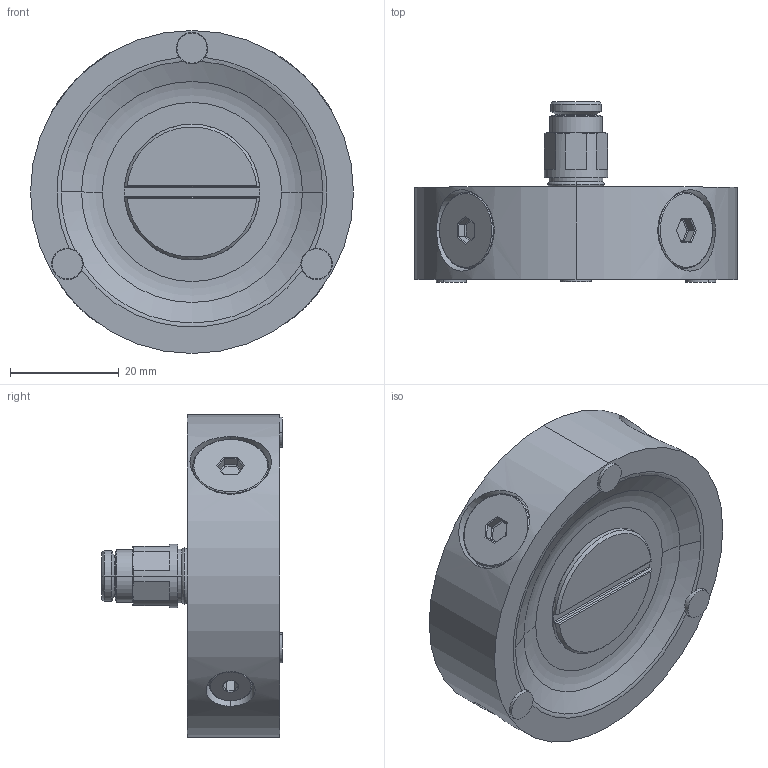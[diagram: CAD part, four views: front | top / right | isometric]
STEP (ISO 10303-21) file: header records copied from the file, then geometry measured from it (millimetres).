
FILE_DESCRIPTION (( 'STEP AP203' ), '1' );
FILE_NAME ('VB 60.STEP', '2021-12-21T14:39:43', ( '' ), ( '' ), 'SwSTEP 2.0', 'SolidWorks 2021', '' );
FILE_SCHEMA (( 'CONFIG_CONTROL_DESIGN' ));
Length unit declared in the file: millimetre
Products named in the file (1): VB 60
Bounding box: 59.5 x 33.24 x 59.5 mm (x, y, z)
Volume: 39695.8 mm3; surface area: 17448.3 mm2
Topology: 12 solids, 13 shells, 492 faces, 1185 edges, 727 vertices
Faces by surface type: cylinder 225, plane 118, cone 108, torus 29, bspline 12
Entity records: 20428 total; most frequent: CARTESIAN_POINT 9558, ORIENTED_EDGE 2330, DIRECTION 2207, EDGE_CURVE 1165, AXIS2_PLACEMENT_3D 876, VERTEX_POINT 727, EDGE_LOOP 546, FACE_OUTER_BOUND 492
